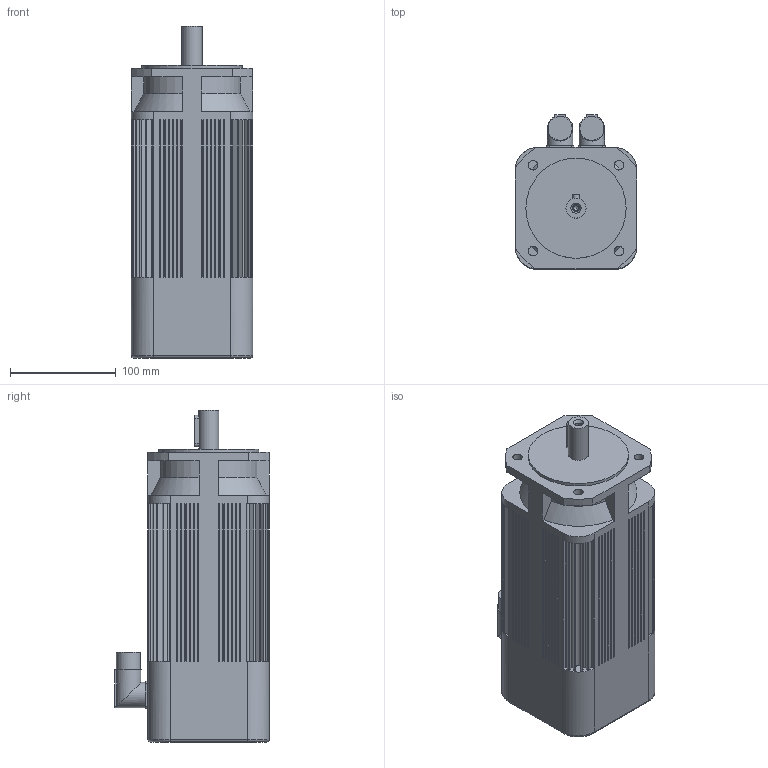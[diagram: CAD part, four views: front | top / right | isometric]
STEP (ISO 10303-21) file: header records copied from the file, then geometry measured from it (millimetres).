
FILE_DESCRIPTION(/* description */ (''),/* implementation_level */ '2;1');
FILE_NAME(/* name */ 'C:\Users\Pastrello_Ylenia\Desktop\Modelli 3D Serad\B63I\B6308Ixx6A052000.stp',/* time_stamp */ '2015-06-12T14:50:02+02:00',/* author */ ('Pastrello_Ylenia'),/* organization */ (''),/* preprocessor_version */ 'ST-DEVELOPER v15.6',/* originating_system */ 'Autodesk Inventor 2015',/* authorisation */ '');
FILE_SCHEMA (('AUTOMOTIVE_DESIGN { 1 0 10303 214 3 1 1 }'));
Length unit declared in the file: millimetre
Products named in the file (1): B6308Ixx6A052000
Bounding box: 115 x 146.5 x 314.5 mm (x, y, z)
Volume: 3376987.5 mm3; surface area: 198732.9 mm2
Topology: 1 solids, 1 shells, 451 faces, 1104 edges, 712 vertices
Faces by surface type: plane 352, cylinder 88, cone 7, torus 4
Full cylindrical faces by diameter (mm): 4.917 x1, 6.4 x1, 9 x4, 19 x1, 22.7 x2, 24 x2, 95 x1
Entity records: 13128 total; most frequent: CARTESIAN_POINT 2294, DIRECTION 2278, ORIENTED_EDGE 2168, EDGE_CURVE 1084, LINE 774, VECTOR 774, AXIS2_PLACEMENT_3D 752, VERTEX_POINT 708
